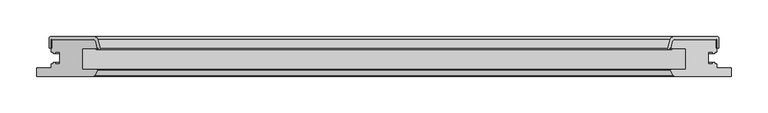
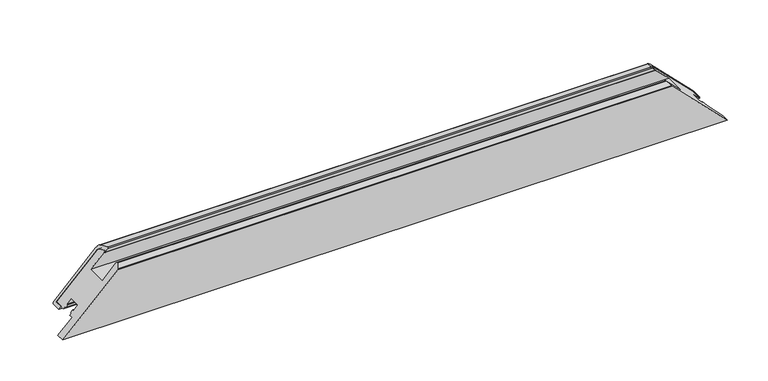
"""IFC4 building model written with IfcOpenShell, lengths in millimetres: proxy geometry, Weiku - Montante - Folha 02.2.01.017 : Weiku - Montante - Folha 02.2.01.017."""

from ifc_helpers import new_model, si_unit, frame, origin, place, context, project, spatial, polyline, ellipse_curve, source, transform, mapped, element, save
from ifc_brep_helpers import plane_surface, cylinder_surface, revolved_surface, advanced_brep


def generic_models_fe22d4f2(model_context):
    return source(origin(), model_context, "Body", "AdvancedBrep", [
        advanced_brep(
        [(452.0, 50.0, 20.0), (394.9997332, 50.0, 77.0002668), (-394.9997332, 50.0, 77.0002668), (-452.0, 50.0, 20.0), (392.1019557, 47.7764571, 79.8980443), (-392.1019557, 47.7764571, 79.8980443), (389.5170371, 38.1294095, 82.4829629), (-389.5170371, 38.1294095, 82.4829629), (390.0, 37.5, 82.0), (-390.0, 37.5, 82.0), (390.8560102, 37.5, 81.1439898), (-390.8560102, 37.5, 81.1439898), (390.8560102, 36.5, 81.1439898), (-390.8560102, 36.5, 81.1439898), (386.2425588, 36.5, 85.7574412), (-386.2425588, 36.5, 85.7574412), (385.2766329, 37.758819, 86.7233671), (-385.2766329, 37.758819, 86.7233671), (388.6354501, 50.2940952, 83.3645499), (-388.6354501, 50.2940952, 83.3645499), (393.4650792, 54.0, 78.5349208), (-393.4650792, 54.0, 78.5349208), (453.0, 54.0, 19.0), (-453.0, 54.0, 19.0), (455.0, 52.0, 17.0), (-455.0, 52.0, 17.0), (455.0, 38.5, 17.0), (-455.0, 38.5, 17.0), (452.0, 38.5, 20.0), (-452.0, 38.5, 20.0)],
        [
            (0, 1),
            (1, 2),
            (2, 3),
            (3, 0),
            (1, 4, ellipse_curve(frame((394.9997332, 47.0, 77.0002668), z_axis=(0.7071067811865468, 0.0, 0.7071067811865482), x_axis=(0.7071067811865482, 0.0, -0.7071067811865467)), 4.2426407, 3.0)),
            (4, 5),
            (5, 2, ellipse_curve(frame((-394.9997332, 47.0, 77.0002668), z_axis=(-0.7071067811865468, 0.0, 0.7071067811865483), x_axis=(0.7071067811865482, 0.0, 0.7071067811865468)), 4.2426407, 3.0)),
            (4, 6),
            (6, 7),
            (7, 5),
            (6, 8, ellipse_curve(frame((390.0, 38.0, 82.0), z_axis=(0.7071067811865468, 0.0, 0.7071067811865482), x_axis=(0.7071067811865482, 0.0, -0.7071067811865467)), 0.7071068, 0.5)),
            (8, 9),
            (9, 7, ellipse_curve(frame((-390.0, 38.0, 82.0), z_axis=(-0.7071067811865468, 0.0, 0.7071067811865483), x_axis=(0.7071067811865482, 0.0, 0.7071067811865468)), 0.7071068, 0.5)),
            (8, 10),
            (10, 11),
            (11, 9),
            (10, 12, ellipse_curve(frame((390.8560102, 37.0, 81.1439898), z_axis=(-0.7071067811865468, 0.0, -0.7071067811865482), x_axis=(-0.7071067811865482, 0.0, 0.7071067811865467)), 0.7071068, 0.5)),
            (12, 13),
            (13, 11, ellipse_curve(frame((-390.8560102, 37.0, 81.1439898), z_axis=(0.7071067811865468, 0.0, -0.7071067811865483), x_axis=(-0.7071067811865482, 0.0, -0.7071067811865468)), 0.7071068, 0.5)),
            (12, 14),
            (14, 15),
            (15, 13),
            (14, 16, ellipse_curve(frame((386.2425588, 37.5, 85.7574412), z_axis=(-0.7071067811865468, 0.0, -0.7071067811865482), x_axis=(-0.7071067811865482, 0.0, 0.7071067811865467)), 1.4142136, 1.0)),
            (16, 17),
            (17, 15, ellipse_curve(frame((-386.2425588, 37.5, 85.7574412), z_axis=(0.7071067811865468, 0.0, -0.7071067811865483), x_axis=(-0.7071067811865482, 0.0, -0.7071067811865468)), 1.4142136, 1.0)),
            (16, 18),
            (18, 19),
            (19, 17),
            (18, 20, ellipse_curve(frame((393.4650792, 49.0, 78.5349208), z_axis=(-0.7071067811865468, 0.0, -0.7071067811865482), x_axis=(-0.7071067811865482, 0.0, 0.7071067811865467)), 7.0710678, 5.0)),
            (20, 21),
            (21, 19, ellipse_curve(frame((-393.4650792, 49.0, 78.5349208), z_axis=(0.7071067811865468, 0.0, -0.7071067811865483), x_axis=(-0.7071067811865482, 0.0, -0.7071067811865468)), 7.0710678, 5.0)),
            (20, 22),
            (22, 23),
            (23, 21),
            (22, 24, ellipse_curve(frame((453.0, 52.0, 19.0), z_axis=(-0.7071067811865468, 0.0, -0.7071067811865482), x_axis=(-0.7071067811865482, 0.0, 0.7071067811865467)), 2.8284271, 2.0)),
            (24, 25),
            (25, 23, ellipse_curve(frame((-453.0, 52.0, 19.0), z_axis=(0.7071067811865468, 0.0, -0.7071067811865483), x_axis=(-0.7071067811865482, 0.0, -0.7071067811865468)), 2.8284271, 2.0)),
            (24, 26),
            (26, 27),
            (27, 25),
            (26, 28),
            (28, 29),
            (29, 27),
            (28, 0),
            (3, 29),
        ],
        [
            plane_surface(frame((-492.0, 50.0, 20.0), z_axis=(0.0, -1.0, 0.0), x_axis=(1.0, 0.0, 0.0))),
            revolved_surface(polyline([(397.99973320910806, 50.0, 77.0002668), (-397.99973320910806, 50.0, 77.0002668)]), (-492.0, 47.0, 77.0002668), (1.0, 0.0, 0.0)),
            plane_surface(frame((-492.0, 47.7764571, 79.8980443), z_axis=(0.0, -0.2588190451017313, -0.9659258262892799), x_axis=(1.0, 0.0, 0.0))),
            revolved_surface(polyline([(390.50000001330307, 38.5, 82.0), (-390.5000000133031, 38.5, 82.0)]), (-492.0, 38.0, 82.0), (1.0, 0.0, 0.0)),
            plane_surface(frame((-492.0, 37.5, 82.0), z_axis=(0.0, 1.0, 0.0), x_axis=(1.0, 0.0, 0.0))),
            cylinder_surface(frame((-492.0, 37.0, 81.1439898), z_axis=(-1.0, 0.0, 0.0), x_axis=(0.0, 1.0, 0.0)), 0.5),
            plane_surface(frame((-492.0, 36.5, 81.1439898), z_axis=(0.0, -1.0, 0.0), x_axis=(1.0, 0.0, 0.0))),
            cylinder_surface(frame((-492.0, 37.5, 85.7574412), z_axis=(-1.0, 0.0, 0.0), x_axis=(0.0, 1.0, 0.0)), 1.0),
            plane_surface(frame((-492.0, 37.758819, 86.7233671), z_axis=(0.0, 0.25881904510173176, 0.9659258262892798), x_axis=(1.0, 0.0, 0.0))),
            cylinder_surface(frame((-492.0, 49.0, 78.5349208), z_axis=(-1.0, 0.0, 0.0), x_axis=(0.0, 1.0, 0.0)), 5.0),
            plane_surface(frame((-492.0, 54.0, 78.5349208), z_axis=(0.0, 1.0, 0.0), x_axis=(1.0, 0.0, 0.0))),
            cylinder_surface(frame((-492.0, 52.0, 19.0), z_axis=(-1.0, 0.0, 0.0), x_axis=(0.0, 1.0, 0.0)), 2.0),
            plane_surface(frame((-492.0, 52.0, 17.0), z_axis=(0.0, 0.0, -1.0), x_axis=(1.0, 0.0, 0.0))),
            plane_surface(frame((-492.0, 38.5, 17.0), z_axis=(0.0, -1.0, 0.0), x_axis=(1.0, 0.0, 0.0))),
            plane_surface(frame((-492.0, 38.5, 20.0), z_axis=(0.0, 0.0, 1.0), x_axis=(1.0, 0.0, 0.0))),
            plane_surface(frame((382.0, 0.0, 90.0), z_axis=(0.7071067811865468, 0.0, 0.7071067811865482), x_axis=(0.0, 1.0, 0.0))),
            plane_surface(frame((-500.2842712, 0.0, -28.2842712), z_axis=(-0.7071067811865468, 0.0, 0.7071067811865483), x_axis=(0.0, 1.0, 0.0))),
        ],
        [
            (0, [[1, 2, 3, 4]]),
            (1, [[5, 6, 7, -2]]),
            (2, [[8, 9, 10, -6]]),
            (3, [[11, 12, 13, -9]]),
            (4, [[14, 15, 16, -12]]),
            (5, [[17, 18, 19, -15]]),
            (6, [[20, 21, 22, -18]]),
            (7, [[23, 24, 25, -21]]),
            (8, [[26, 27, 28, -24]]),
            (9, [[29, 30, 31, -27]]),
            (10, [[32, 33, 34, -30]]),
            (11, [[35, 36, 37, -33]]),
            (12, [[38, 39, 40, -36]]),
            (13, [[41, 42, 43, -39]]),
            (14, [[44, -4, 45, -42]]),
            (15, [[-1, -44, -41, -38, -35, -32, -29, -26, -23, -20, -17, -14, -11, -8, -5]]),
            (16, [[-3, -7, -10, -13, -16, -19, -22, -25, -28, -31, -34, -37, -40, -43, -45]]),
        ],
    ),
        advanced_brep(
        [(-452.0, 50.0, 20.0), (-394.9997332, 50.0, 77.0002668), (394.9997332, 50.0, 77.0002668), (452.0, 50.0, 20.0), (-472.0, 0.0, 0.0), (472.0, 0.0, 0.0), (393.9872264, 0.0, 78.0127736), (-393.9872264, 0.0, 78.0127736), (-452.0, 33.1, 20.0), (-449.8, 33.1, 22.2), (-449.8, 31.1, 22.2), (-447.0, 31.1, 25.0), (-447.0, 33.1, 25.0), (-440.5, 33.1, 31.5), (-440.5, 16.9, 31.5), (-447.0, 16.9, 25.0), (-447.0, 18.9, 25.0), (-449.8, 18.9, 22.2), (-449.8, 16.9, 22.2), (-452.0, 16.9, 20.0), (-452.0, 11.5, 20.0), (-472.0, 11.5, 0.0), (-393.0932657, 0.5518546, 78.9067343), (-389.5512796, 7.617411, 82.4487204), (-390.7134285, 9.5, 81.2865715), (-410.5, 9.5, 61.5), (-410.5, 37.5, 61.5), (-390.0, 37.5, 82.0), (-389.5170371, 38.1294095, 82.4829629), (-392.1019557, 47.7764571, 79.8980443), (392.1019557, 47.7764571, 79.8980443), (389.5170371, 38.1294095, 82.4829629), (390.0, 37.5, 82.0), (410.5, 37.5, 61.5), (410.5, 9.5, 61.5), (390.7134285, 9.5, 81.2865715), (389.5512796, 7.617411, 82.4487204), (393.0932657, 0.5518546, 78.9067343), (472.0, 11.5, 0.0), (452.0, 11.5, 20.0), (452.0, 16.9, 20.0), (449.8, 16.9, 22.2), (449.8, 18.9, 22.2), (447.0, 18.9, 25.0), (447.0, 16.9, 25.0), (440.5, 16.9, 31.5), (440.5, 33.1, 31.5), (447.0, 33.1, 25.0), (447.0, 31.1, 25.0), (449.8, 31.1, 22.2), (449.8, 33.1, 22.2), (452.0, 33.1, 20.0)],
        [
            (0, 1),
            (1, 2),
            (2, 3),
            (3, 0),
            (4, 5),
            (5, 6),
            (6, 7),
            (7, 4),
            (0, 8),
            (8, 9),
            (9, 10),
            (10, 11),
            (11, 12),
            (12, 13),
            (13, 14),
            (14, 15),
            (15, 16),
            (16, 17),
            (17, 18),
            (18, 19),
            (19, 20),
            (20, 21),
            (21, 4),
            (7, 22, ellipse_curve(frame((-393.9872264, 1.0, 78.0127736), z_axis=(-0.7071067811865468, 0.0, 0.7071067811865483), x_axis=(-0.7071067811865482, 0.0, -0.7071067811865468)), 1.4142136, 1.0)),
            (22, 23),
            (23, 24, ellipse_curve(frame((-390.7134285, 8.2, 81.2865715), z_axis=(-0.7071067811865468, 0.0, 0.7071067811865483), x_axis=(-0.7071067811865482, 0.0, -0.7071067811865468)), 1.8384776, 1.3)),
            (24, 25),
            (25, 26),
            (26, 27),
            (27, 28, ellipse_curve(frame((-390.0, 38.0, 82.0), z_axis=(-0.7071067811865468, 0.0, 0.7071067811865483), x_axis=(-0.7071067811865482, 0.0, -0.7071067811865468)), 0.7071068, 0.5)),
            (28, 29),
            (29, 1, ellipse_curve(frame((-394.9997332, 47.0, 77.0002668), z_axis=(-0.7071067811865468, 0.0, 0.7071067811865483), x_axis=(-0.7071067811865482, 0.0, -0.7071067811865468)), 4.2426407, 3.0)),
            (2, 30, ellipse_curve(frame((394.9997332, 47.0, 77.0002668), z_axis=(0.7071067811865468, 0.0, 0.7071067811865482), x_axis=(-0.7071067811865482, 0.0, 0.7071067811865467)), 4.2426407, 3.0)),
            (30, 31),
            (31, 32, ellipse_curve(frame((390.0, 38.0, 82.0), z_axis=(0.7071067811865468, 0.0, 0.7071067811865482), x_axis=(-0.7071067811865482, 0.0, 0.7071067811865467)), 0.7071068, 0.5)),
            (32, 33),
            (33, 34),
            (34, 35),
            (35, 36, ellipse_curve(frame((390.7134285, 8.2, 81.2865715), z_axis=(0.7071067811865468, 0.0, 0.7071067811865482), x_axis=(-0.7071067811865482, 0.0, 0.7071067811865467)), 1.8384776, 1.3)),
            (36, 37),
            (37, 6, ellipse_curve(frame((393.9872264, 1.0, 78.0127736), z_axis=(0.7071067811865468, 0.0, 0.7071067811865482), x_axis=(-0.7071067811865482, 0.0, 0.7071067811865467)), 1.4142136, 1.0)),
            (5, 38),
            (38, 39),
            (39, 40),
            (40, 41),
            (41, 42),
            (42, 43),
            (43, 44),
            (44, 45),
            (45, 46),
            (46, 47),
            (47, 48),
            (48, 49),
            (49, 50),
            (50, 51),
            (51, 3),
            (37, 22),
            (36, 23),
            (35, 24),
            (34, 25),
            (33, 26),
            (32, 27),
            (31, 28),
            (30, 29),
            (51, 8),
            (50, 9),
            (49, 10),
            (48, 11),
            (47, 12),
            (46, 13),
            (45, 14),
            (44, 15),
            (43, 16),
            (42, 17),
            (41, 18),
            (40, 19),
            (39, 20),
            (38, 21),
        ],
        [
            plane_surface(frame((-472.0, 50.0, 77.0002668), z_axis=(0.0, 1.0, 0.0), x_axis=(1.0, 0.0, 0.0))),
            plane_surface(frame((-472.0, 0.0, 0.0), z_axis=(0.0, -1.0, 0.0), x_axis=(1.0, 0.0, 0.0))),
            plane_surface(frame((-500.2842712, 0.0, -28.2842712), z_axis=(-0.7071067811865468, 0.0, 0.7071067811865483), x_axis=(0.0, 1.0, 0.0))),
            plane_surface(frame((382.0, 0.0, 90.0), z_axis=(0.7071067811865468, 0.0, 0.7071067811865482), x_axis=(0.0, 1.0, 0.0))),
            cylinder_surface(frame((-472.0, 1.0, 78.0127736), z_axis=(-1.0, 0.0, 0.0), x_axis=(0.0, 1.0, 0.0)), 1.0),
            plane_surface(frame((-472.0, 0.5518546, 78.9067343), z_axis=(0.0, -0.4481453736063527, 0.8939606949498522), x_axis=(1.0, 0.0, 0.0))),
            cylinder_surface(frame((-472.0, 8.2, 81.2865715), z_axis=(-1.0, 0.0, 0.0), x_axis=(0.0, 1.0, 0.0)), 1.3),
            plane_surface(frame((-472.0, 9.5, 81.2865715), z_axis=(0.0, 1.0, 0.0), x_axis=(1.0, 0.0, 0.0))),
            plane_surface(frame((-472.0, 9.5, 61.5), z_axis=(0.0, 0.0, 1.0), x_axis=(1.0, 0.0, 0.0))),
            plane_surface(frame((-472.0, 37.5, 61.5), z_axis=(0.0, -1.0, 0.0), x_axis=(1.0, 0.0, 0.0))),
            cylinder_surface(frame((-472.0, 38.0, 82.0), z_axis=(-1.0, 0.0, 0.0), x_axis=(0.0, 1.0, 0.0)), 0.5),
            plane_surface(frame((-472.0, 38.1294095, 82.4829629), z_axis=(0.0, 0.2588190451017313, 0.9659258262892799), x_axis=(1.0, 0.0, 0.0))),
            cylinder_surface(frame((-472.0, 47.0, 77.0002668), z_axis=(-1.0, 0.0, 0.0), x_axis=(0.0, 1.0, 0.0)), 3.0),
            plane_surface(frame((-472.0, 50.0, 20.0), z_axis=(0.0, 0.0, -1.0), x_axis=(1.0, 0.0, 0.0))),
            plane_surface(frame((-472.0, 33.1, 20.0), z_axis=(0.0, -1.0, 0.0), x_axis=(1.0, 0.0, 0.0))),
            plane_surface(frame((-472.0, 33.1, 22.2), z_axis=(0.0, 0.0, -1.0), x_axis=(1.0, 0.0, 0.0))),
            plane_surface(frame((-472.0, 31.1, 22.2), z_axis=(0.0, -1.0, 0.0), x_axis=(1.0, 0.0, 0.0))),
            plane_surface(frame((-472.0, 31.1, 25.0), z_axis=(0.0, 0.0, 1.0), x_axis=(1.0, 0.0, 0.0))),
            plane_surface(frame((-472.0, 33.1, 25.0), z_axis=(0.0, -1.0, 0.0), x_axis=(1.0, 0.0, 0.0))),
            plane_surface(frame((-472.0, 33.1, 31.5), z_axis=(0.0, 0.0, -1.0), x_axis=(1.0, 0.0, 0.0))),
            plane_surface(frame((-472.0, 16.9, 31.5), z_axis=(0.0, 1.0, 0.0), x_axis=(1.0, 0.0, 0.0))),
            plane_surface(frame((-472.0, 16.9, 25.0), z_axis=(0.0, 0.0, 1.0), x_axis=(1.0, 0.0, 0.0))),
            plane_surface(frame((-472.0, 18.9, 25.0), z_axis=(0.0, 1.0, 0.0), x_axis=(1.0, 0.0, 0.0))),
            plane_surface(frame((-472.0, 18.9, 22.2), z_axis=(0.0, 0.0, -1.0), x_axis=(1.0, 0.0, 0.0))),
            plane_surface(frame((-472.0, 16.9, 22.2), z_axis=(0.0, 1.0, 0.0), x_axis=(1.0, 0.0, 0.0))),
            plane_surface(frame((-472.0, 16.9, 20.0), z_axis=(0.0, 0.0, -1.0), x_axis=(1.0, 0.0, 0.0))),
            plane_surface(frame((-472.0, 11.5, 20.0), z_axis=(0.0, 1.0, 0.0), x_axis=(1.0, 0.0, 0.0))),
            plane_surface(frame((-472.0, 11.5, 0.0), z_axis=(0.0, 0.0, -1.0), x_axis=(1.0, 0.0, 0.0))),
        ],
        [
            (0, [[1, 2, 3, 4]]),
            (1, [[5, 6, 7, 8]]),
            (2, [[-1, 9, 10, 11, 12, 13, 14, 15, 16, 17, 18, 19, 20, 21, 22, 23, -8, 24, 25, 26, 27, 28, 29, 30, 31, 32]]),
            (3, [[-3, 33, 34, 35, 36, 37, 38, 39, 40, 41, -6, 42, 43, 44, 45, 46, 47, 48, 49, 50, 51, 52, 53, 54, 55, 56]]),
            (4, [[-24, -7, -41, 57]]),
            (5, [[-25, -57, -40, 58]]),
            (6, [[-26, -58, -39, 59]]),
            (7, [[-27, -59, -38, 60]]),
            (8, [[-28, -60, -37, 61]]),
            (9, [[-29, -61, -36, 62]]),
            (10, [[-30, -62, -35, 63]]),
            (11, [[-31, -63, -34, 64]]),
            (12, [[-32, -64, -33, -2]]),
            (13, [[-9, -4, -56, 65]]),
            (14, [[-10, -65, -55, 66]]),
            (15, [[-11, -66, -54, 67]]),
            (16, [[-12, -67, -53, 68]]),
            (17, [[-13, -68, -52, 69]]),
            (18, [[-14, -69, -51, 70]]),
            (19, [[-15, -70, -50, 71]]),
            (20, [[-16, -71, -49, 72]]),
            (21, [[-17, -72, -48, 73]]),
            (22, [[-18, -73, -47, 74]]),
            (23, [[-19, -74, -46, 75]]),
            (24, [[-20, -75, -45, 76]]),
            (25, [[-21, -76, -44, 77]]),
            (26, [[78, -22, -77, -43]]),
            (27, [[-5, -23, -78, -42]]),
        ],
    ),
    ])


if __name__ == "__main__":
    model = new_model("IFC4")
    model_context = context("Model", 3, world=origin())
    ifc_project = project(units=[si_unit("LENGTHUNIT", "METRE", prefix="MILLI")], contexts=[model_context])
    site = spatial("IfcSite", under=ifc_project)
    building = spatial("IfcBuilding", under=site)
    placement = place(None, origin())
    generic_models_shape = generic_models_fe22d4f2(model_context)
    element("IfcBuildingElementProxy", 1, Name="Weiku - Montante - Folha 02.2.01.017 : Weiku - Montante - Folha 02.2.01.017", ObjectType="Weiku - Montante - Folha 02.2.01.017 : Weiku - Montante - Folha 02.2.01.017", at=placement, inside=building, context=model_context, shape_type="MappedRepresentation", body=[
        mapped(generic_models_shape, transform((0.0, 0.0, 0.0), x_axis=(1.0, 0.0, 0.0), y_axis=(0.0, 1.0, 0.0), z_axis=(0.0, 0.0, 1.0))),
    ])
    save(model, "model.ifc")
